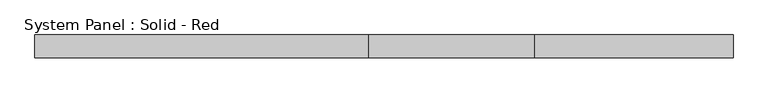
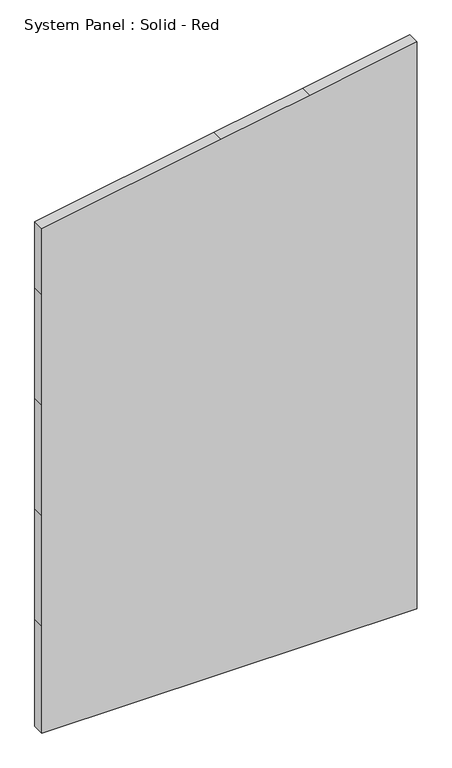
"""IFC4 building model written with IfcOpenShell, lengths in millimetres: plate geometry, System Panel : Solid - Red."""

from ifc_helpers import new_model, si_unit, frame, origin, place, context, project, spatial, polyline, outline, extrude, source, transform, mapped, element, save


def system_panel_solid_red_bf65e7b4(model_context):
    return source(origin(), model_context, "Body", "SweptSolid", [
        extrude(outline(polyline([(0.0, -977.9), (0.0, -43.3916667), (0.0, 977.9), (587.9024417, 977.9), (1197.5024417, 977.9), (1807.1024417, 977.9), (2416.7024417, 977.9), (3026.3024417, 977.9), (3124.3378807, 977.9), (3026.3024417, 421.9133972), (2944.2566047, -43.3916667), (2779.4775718, -977.9), (2416.7024417, -977.9), (1807.1024417, -977.9), (1197.5024417, -977.9), (587.9024417, -977.9), (0.0, -977.9)])), frame((0.0, -44.45, 0.0), z_axis=(0.0, 1.0, 0.0), x_axis=(0.0, 0.0, 1.0)), (0.0, 0.0, 1.0), 63.5),
    ])


if __name__ == "__main__":
    model = new_model("IFC4")
    model_context = context("Model", 3, world=origin())
    ifc_project = project(units=[si_unit("LENGTHUNIT", "METRE", prefix="MILLI")], contexts=[model_context])
    site = spatial("IfcSite", under=ifc_project)
    building = spatial("IfcBuilding", under=site)
    placement = place(None, origin())
    system_panel_solid_red_shape = system_panel_solid_red_bf65e7b4(model_context)
    element("IfcPlate", 1, ObjectType="System Panel : Solid - Red", at=placement, inside=building, context=model_context, shape_type="MappedRepresentation", body=[
        mapped(system_panel_solid_red_shape, transform((0.0, 0.0, 0.0), x_axis=(1.0, 0.0, 0.0), y_axis=(0.0, 1.0, 0.0), z_axis=(0.0, 0.0, 1.0))),
    ])
    save(model, "model.ifc")
